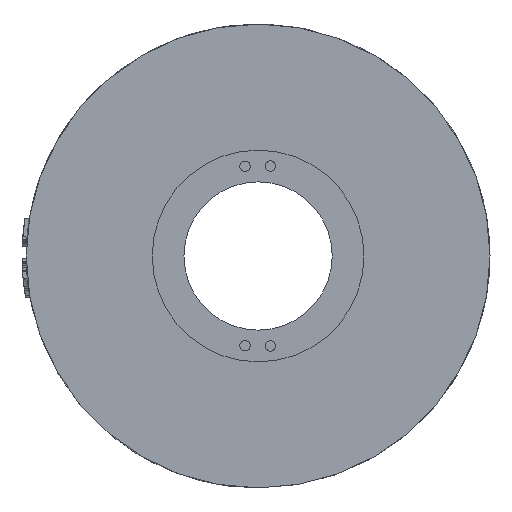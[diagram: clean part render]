
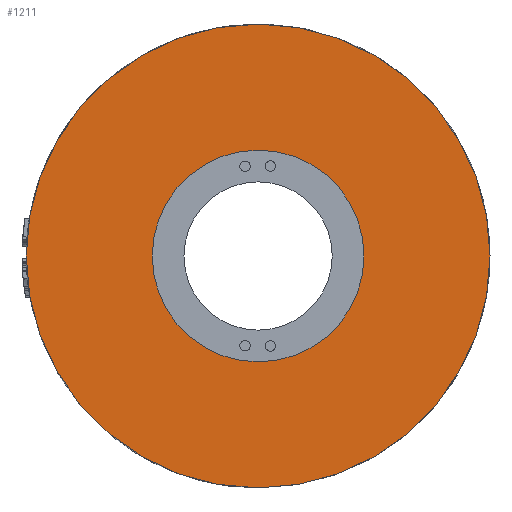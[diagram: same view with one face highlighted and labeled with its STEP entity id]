
A CAD part, left-side view. The second image highlights one B-rep face of the part: STEP entity #1211.
In plain terms, the highlighted planar face has unit normal (-1, 0, 0).
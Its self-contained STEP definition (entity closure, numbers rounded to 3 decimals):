
#79=FACE_BOUND('',#3644,.T.);
#80=FACE_BOUND('',#3645,.T.);
#248=CIRCLE('',#13506,5.);
#249=CIRCLE('',#13508,10.95);
#537=PLANE('',#13509);
#1211=ADVANCED_FACE('',(#79,#80),#537,.F.);
#3644=EDGE_LOOP('',(#5983));
#3645=EDGE_LOOP('',(#5984));
#5983=ORIENTED_EDGE('',*,*,#10683,.T.);
#5984=ORIENTED_EDGE('',*,*,#10684,.F.);
#8855=VERTEX_POINT('',#26684);
#8856=VERTEX_POINT('',#26687);
#10683=EDGE_CURVE('',#8855,#8855,#248,.T.);
#10684=EDGE_CURVE('',#8856,#8856,#249,.T.);
#13506=AXIS2_PLACEMENT_3D('',#26683,#14669,#14670);
#13508=AXIS2_PLACEMENT_3D('',#26686,#14673,#14674);
#13509=AXIS2_PLACEMENT_3D('',#26688,#14675,#14676);
#14669=DIRECTION('',(1.,0.,0.));
#14670=DIRECTION('',(0.,0.,-1.));
#14673=DIRECTION('',(1.,0.,0.));
#14674=DIRECTION('',(0.,0.,-1.));
#14675=DIRECTION('',(1.,0.,0.));
#14676=DIRECTION('',(0.,0.,-1.));
#26683=CARTESIAN_POINT('',(0.4,0.,0.));
#26684=CARTESIAN_POINT('',(0.4,0.,-5.));
#26686=CARTESIAN_POINT('',(0.4,0.,0.));
#26687=CARTESIAN_POINT('',(0.4,0.,-10.95));
#26688=CARTESIAN_POINT('',(0.4,0.,0.));
